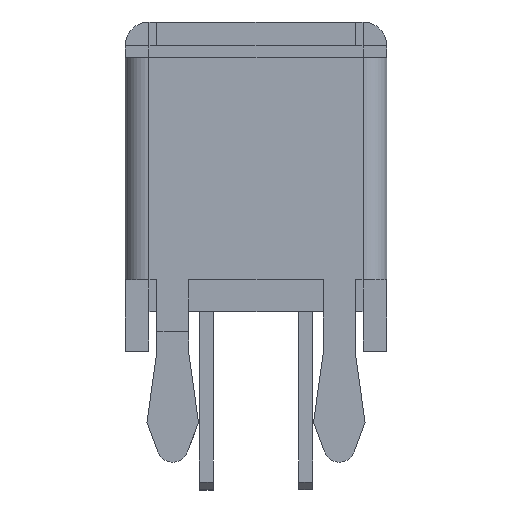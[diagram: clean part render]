
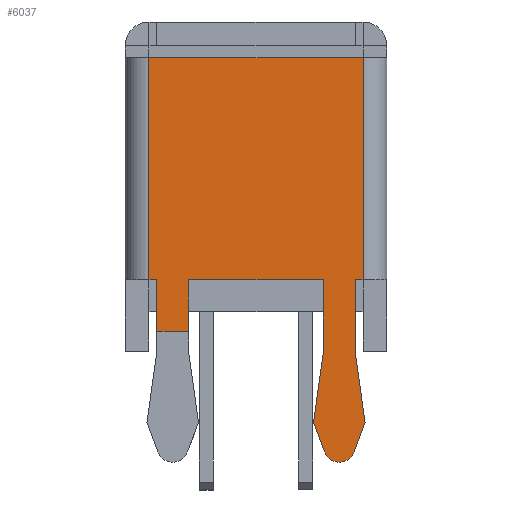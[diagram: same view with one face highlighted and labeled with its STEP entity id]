
A CAD part, front view. The second image highlights one B-rep face of the part: STEP entity #6037.
In plain terms, the highlighted planar face has unit normal (0, -1, 0).
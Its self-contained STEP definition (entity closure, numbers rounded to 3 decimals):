
#3762 = CARTESIAN_POINT ( 'NONE',  ( 2.1, -6., -2.8 ) ) ;
#3767 = CARTESIAN_POINT ( 'NONE',  ( 1.7, -6., 0. ) ) ;
#3768 = DIRECTION ( 'NONE',  ( 0.138, 0., 0.99 ) ) ;
#3769 = VECTOR ( 'NONE', #3768, 1000. ) ;
#3770 = CARTESIAN_POINT ( 'NONE',  ( 1.45, -6., -1.8 ) ) ;
#3771 = LINE ( 'NONE', #3770, #3769 ) ;
#4014 = CARTESIAN_POINT ( 'NONE',  ( 2.475, -6., -2.539 ) ) ;
#4020 = DIRECTION ( 'NONE',  ( 0., 0., 1. ) ) ;
#4021 = VECTOR ( 'NONE', #4020, 1000. ) ;
#4022 = CARTESIAN_POINT ( 'NONE',  ( 1.7, -6., -2.861 ) ) ;
#4023 = LINE ( 'NONE', #4022, #4021 ) ;
#5575 = EDGE_CURVE ( 'NONE', #5705, #5576, #3771, .T. ) ;
#5576 = VERTEX_POINT ( 'NONE', #3767 ) ;
#5583 = VERTEX_POINT ( 'NONE', #3762 ) ;
#5638 = VERTEX_POINT ( 'NONE', #4014 ) ;
#5644 = EDGE_CURVE ( 'NONE', #5576, #5645, #4023, .T. ) ;
#5645 = VERTEX_POINT ( 'NONE', #8302 ) ;
#5655 = EDGE_CURVE ( 'NONE', #5583, #5656, #8310, .T. ) ;
#5656 = VERTEX_POINT ( 'NONE', #8320 ) ;
#5673 = EDGE_CURVE ( 'NONE', #5645, #5696, #6488, .T. ) ;
#5686 = EDGE_CURVE ( 'NONE', #5696, #5745, #6610, .T. ) ;
#5695 = EDGE_CURVE ( 'NONE', #5719, #5638, #6549, .T. ) ;
#5696 = VERTEX_POINT ( 'NONE', #6545 ) ;
#5704 = EDGE_CURVE ( 'NONE', #5656, #5705, #6455, .T. ) ;
#5705 = VERTEX_POINT ( 'NONE', #6451 ) ;
#5717 = EDGE_CURVE ( 'NONE', #5782, #5793, #6445, .T. ) ;
#5718 = EDGE_CURVE ( 'NONE', #5764, #5719, #6441, .T. ) ;
#5719 = VERTEX_POINT ( 'NONE', #6437 ) ;
#5723 = VERTEX_POINT ( 'NONE', #6432 ) ;
#5737 = EDGE_CURVE ( 'NONE', #5740, #5738, #6474, .T. ) ;
#5738 = VERTEX_POINT ( 'NONE', #6470 ) ;
#5740 = VERTEX_POINT ( 'NONE', #6469 ) ;
#5745 = VERTEX_POINT ( 'NONE', #6460 ) ;
#5758 = EDGE_CURVE ( 'NONE', #5745, #5740, #6658, .T. ) ;
#5763 = EDGE_CURVE ( 'NONE', #5793, #5764, #6797, .T. ) ;
#5764 = VERTEX_POINT ( 'NONE', #6793 ) ;
#5777 = EDGE_CURVE ( 'NONE', #5787, #5723, #6680, .T. ) ;
#5781 = EDGE_CURVE ( 'NONE', #5723, #5782, #6775, .T. ) ;
#5782 = VERTEX_POINT ( 'NONE', #6771 ) ;
#5787 = VERTEX_POINT ( 'NONE', #6764 ) ;
#5793 = VERTEX_POINT ( 'NONE', #6727 ) ;
#5827 = EDGE_CURVE ( 'NONE', #5638, #5583, #6967, .T. ) ;
#6030 = ORIENTED_EDGE ( 'NONE', *, *, #5704, .F. ) ;
#6031 = ORIENTED_EDGE ( 'NONE', *, *, #5655, .F. ) ;
#6033 = ORIENTED_EDGE ( 'NONE', *, *, #5673, .F. ) ;
#6034 = ORIENTED_EDGE ( 'NONE', *, *, #5644, .F. ) ;
#6035 = ORIENTED_EDGE ( 'NONE', *, *, #5575, .F. ) ;
#6037 = ADVANCED_FACE ( 'NONE', ( #7531 ), #7604, .F. ) ;
#6038 = EDGE_LOOP ( 'NONE', ( #6033, #6034, #6035, #6030, #6031, #6089, #6090, #6091, #6092, #6093, #6094, #6095, #6096, #6064, #6066, #6067, #6068 ) ) ;
#6064 = ORIENTED_EDGE ( 'NONE', *, *, #6065, .T. ) ;
#6065 = EDGE_CURVE ( 'NONE', #6098, #5738, #7625, .T. ) ;
#6066 = ORIENTED_EDGE ( 'NONE', *, *, #5737, .F. ) ;
#6067 = ORIENTED_EDGE ( 'NONE', *, *, #5758, .F. ) ;
#6068 = ORIENTED_EDGE ( 'NONE', *, *, #5686, .F. ) ;
#6089 = ORIENTED_EDGE ( 'NONE', *, *, #5827, .F. ) ;
#6090 = ORIENTED_EDGE ( 'NONE', *, *, #5695, .F. ) ;
#6091 = ORIENTED_EDGE ( 'NONE', *, *, #5718, .F. ) ;
#6092 = ORIENTED_EDGE ( 'NONE', *, *, #5763, .F. ) ;
#6093 = ORIENTED_EDGE ( 'NONE', *, *, #5717, .F. ) ;
#6094 = ORIENTED_EDGE ( 'NONE', *, *, #5781, .F. ) ;
#6095 = ORIENTED_EDGE ( 'NONE', *, *, #5777, .F. ) ;
#6096 = ORIENTED_EDGE ( 'NONE', *, *, #6097, .F. ) ;
#6097 = EDGE_CURVE ( 'NONE', #6098, #5787, #7687, .T. ) ;
#6098 = VERTEX_POINT ( 'NONE', #7683 ) ;
#6432 = CARTESIAN_POINT ( 'NONE',  ( 2.7, -6., 7.4 ) ) ;
#6437 = CARTESIAN_POINT ( 'NONE',  ( 2.75, -6., -1.8 ) ) ;
#6438 = DIRECTION ( 'NONE',  ( 0.138, 0., -0.99 ) ) ;
#6439 = VECTOR ( 'NONE', #6438, 1000. ) ;
#6440 = CARTESIAN_POINT ( 'NONE',  ( 2.5, -6., 0. ) ) ;
#6441 = LINE ( 'NONE', #6440, #6439 ) ;
#6442 = DIRECTION ( 'NONE',  ( -1., 0., 0. ) ) ;
#6443 = VECTOR ( 'NONE', #6442, 1000. ) ;
#6444 = CARTESIAN_POINT ( 'NONE',  ( 2.783, -6., 1.8 ) ) ;
#6445 = LINE ( 'NONE', #6444, #6443 ) ;
#6451 = CARTESIAN_POINT ( 'NONE',  ( 1.45, -6., -1.8 ) ) ;
#6452 = DIRECTION ( 'NONE',  ( -0.349, 0., 0.937 ) ) ;
#6453 = VECTOR ( 'NONE', #6452, 1000. ) ;
#6454 = CARTESIAN_POINT ( 'NONE',  ( 1.725, -6., -2.539 ) ) ;
#6455 = LINE ( 'NONE', #6454, #6453 ) ;
#6460 = CARTESIAN_POINT ( 'NONE',  ( -1.7, -6., 0.5 ) ) ;
#6469 = CARTESIAN_POINT ( 'NONE',  ( -2.5, -6., 0.5 ) ) ;
#6470 = CARTESIAN_POINT ( 'NONE',  ( -2.5, -6., 1.8 ) ) ;
#6471 = DIRECTION ( 'NONE',  ( 0., 0., 1. ) ) ;
#6472 = VECTOR ( 'NONE', #6471, 1000. ) ;
#6473 = CARTESIAN_POINT ( 'NONE',  ( -2.5, -6., -2.861 ) ) ;
#6474 = LINE ( 'NONE', #6473, #6472 ) ;
#6488 = LINE ( 'NONE', #6628, #6627 ) ;
#6493 = DIRECTION ( 'NONE',  ( -1., 0., 0. ) ) ;
#6545 = CARTESIAN_POINT ( 'NONE',  ( -1.7, -6., 1.8 ) ) ;
#6546 = DIRECTION ( 'NONE',  ( -0.349, 0., -0.937 ) ) ;
#6547 = VECTOR ( 'NONE', #6546, 1000. ) ;
#6548 = CARTESIAN_POINT ( 'NONE',  ( 2.75, -6., -1.8 ) ) ;
#6549 = LINE ( 'NONE', #6548, #6547 ) ;
#6607 = DIRECTION ( 'NONE',  ( 0., 0., -1. ) ) ;
#6608 = VECTOR ( 'NONE', #6607, 1000. ) ;
#6609 = CARTESIAN_POINT ( 'NONE',  ( -1.7, -6., -2.861 ) ) ;
#6610 = LINE ( 'NONE', #6609, #6608 ) ;
#6627 = VECTOR ( 'NONE', #6493, 1000. ) ;
#6628 = CARTESIAN_POINT ( 'NONE',  ( 2.783, -6., 1.8 ) ) ;
#6658 = LINE ( 'NONE', #6758, #6757 ) ;
#6677 = DIRECTION ( 'NONE',  ( 1., 0., 0. ) ) ;
#6678 = VECTOR ( 'NONE', #6677, 1000. ) ;
#6679 = CARTESIAN_POINT ( 'NONE',  ( 2.783, -6., 7.4 ) ) ;
#6680 = LINE ( 'NONE', #6679, #6678 ) ;
#6727 = CARTESIAN_POINT ( 'NONE',  ( 2.5, -6., 1.8 ) ) ;
#6756 = DIRECTION ( 'NONE',  ( -1., 0., 0. ) ) ;
#6757 = VECTOR ( 'NONE', #6756, 1000. ) ;
#6758 = CARTESIAN_POINT ( 'NONE',  ( 2.783, -6., 0.5 ) ) ;
#6764 = CARTESIAN_POINT ( 'NONE',  ( -2.7, -6., 7.4 ) ) ;
#6771 = CARTESIAN_POINT ( 'NONE',  ( 2.7, -6., 1.8 ) ) ;
#6772 = DIRECTION ( 'NONE',  ( 0., 0., -1. ) ) ;
#6773 = VECTOR ( 'NONE', #6772, 1000. ) ;
#6774 = CARTESIAN_POINT ( 'NONE',  ( 2.7, -6., -2.861 ) ) ;
#6775 = LINE ( 'NONE', #6774, #6773 ) ;
#6793 = CARTESIAN_POINT ( 'NONE',  ( 2.5, -6., 0. ) ) ;
#6794 = DIRECTION ( 'NONE',  ( 0., 0., -1. ) ) ;
#6795 = VECTOR ( 'NONE', #6794, 1000. ) ;
#6796 = CARTESIAN_POINT ( 'NONE',  ( 2.5, -6., -2.861 ) ) ;
#6797 = LINE ( 'NONE', #6796, #6795 ) ;
#6963 = DIRECTION ( 'NONE',  ( 0., 0., -1. ) ) ;
#6964 = DIRECTION ( 'NONE',  ( 0., 1., 0. ) ) ;
#6965 = CARTESIAN_POINT ( 'NONE',  ( 2.1, -6., -2.4 ) ) ;
#6966 = AXIS2_PLACEMENT_3D ( 'NONE', #6965, #6964, #6963 ) ;
#6967 = CIRCLE ( 'NONE', #6966, 0.4 ) ;
#7531 = FACE_OUTER_BOUND ( 'NONE', #6038, .T. ) ;
#7600 = DIRECTION ( 'NONE',  ( 0., 0., 1. ) ) ;
#7601 = DIRECTION ( 'NONE',  ( 0., 1., 0. ) ) ;
#7602 = CARTESIAN_POINT ( 'NONE',  ( 2.783, -6., -2.861 ) ) ;
#7603 = AXIS2_PLACEMENT_3D ( 'NONE', #7602, #7601, #7600 ) ;
#7604 = PLANE ( 'NONE',  #7603 ) ;
#7622 = DIRECTION ( 'NONE',  ( 1., 0., 0. ) ) ;
#7623 = VECTOR ( 'NONE', #7622, 1000. ) ;
#7624 = CARTESIAN_POINT ( 'NONE',  ( -3.3, -6., 1.8 ) ) ;
#7625 = LINE ( 'NONE', #7624, #7623 ) ;
#7683 = CARTESIAN_POINT ( 'NONE',  ( -2.7, -6., 1.8 ) ) ;
#7684 = DIRECTION ( 'NONE',  ( 0., 0., 1. ) ) ;
#7685 = VECTOR ( 'NONE', #7684, 1000. ) ;
#7686 = CARTESIAN_POINT ( 'NONE',  ( -2.7, -6., 1.8 ) ) ;
#7687 = LINE ( 'NONE', #7686, #7685 ) ;
#8302 = CARTESIAN_POINT ( 'NONE',  ( 1.7, -6., 1.8 ) ) ;
#8310 = CIRCLE ( 'NONE', #8386, 0.4 ) ;
#8320 = CARTESIAN_POINT ( 'NONE',  ( 1.725, -6., -2.539 ) ) ;
#8321 = DIRECTION ( 'NONE',  ( 0., 0., -1. ) ) ;
#8322 = DIRECTION ( 'NONE',  ( 0., 1., 0. ) ) ;
#8385 = CARTESIAN_POINT ( 'NONE',  ( 2.1, -6., -2.4 ) ) ;
#8386 = AXIS2_PLACEMENT_3D ( 'NONE', #8385, #8322, #8321 ) ;
